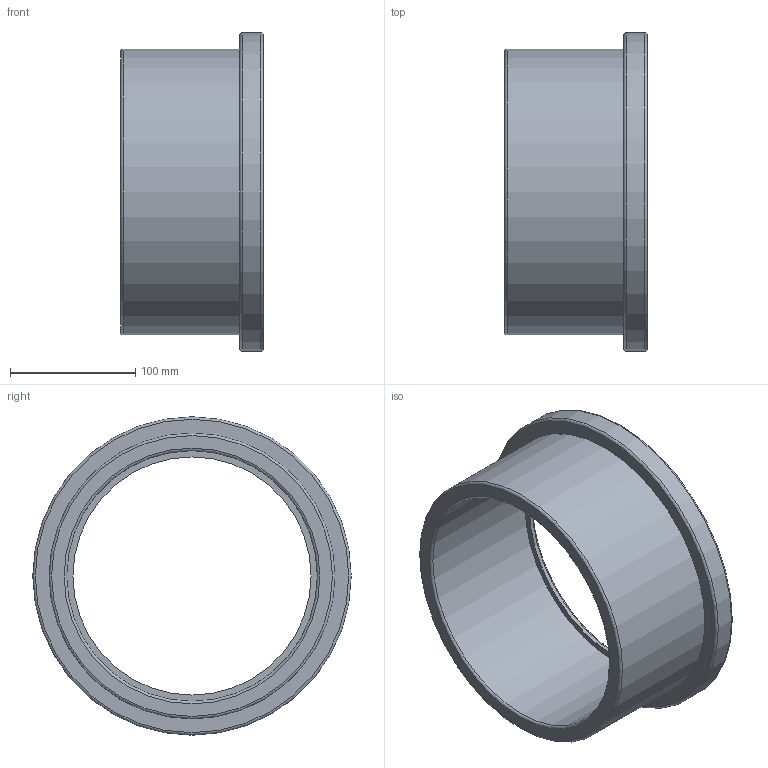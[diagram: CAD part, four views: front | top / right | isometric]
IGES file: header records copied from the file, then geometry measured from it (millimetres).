
Global section: file name: 055200200.ipt; native system: Autodesk Inventor 2015; preprocessor: unknown; author: KIM; date: 20171207.165757; units: millimetre
Bounding box: 114 x 254 x 254 mm (x, y, z)
Volume: 1250294.9 mm3; surface area: 198968 mm2
Topology: 1 solids, 1 shells, 28 faces, 71 edges, 52 vertices
Faces by surface type: revolution 12, plane 9, bspline 5, cylinder 2
Full cylindrical faces by diameter (mm): 228 x1, 254 x1
